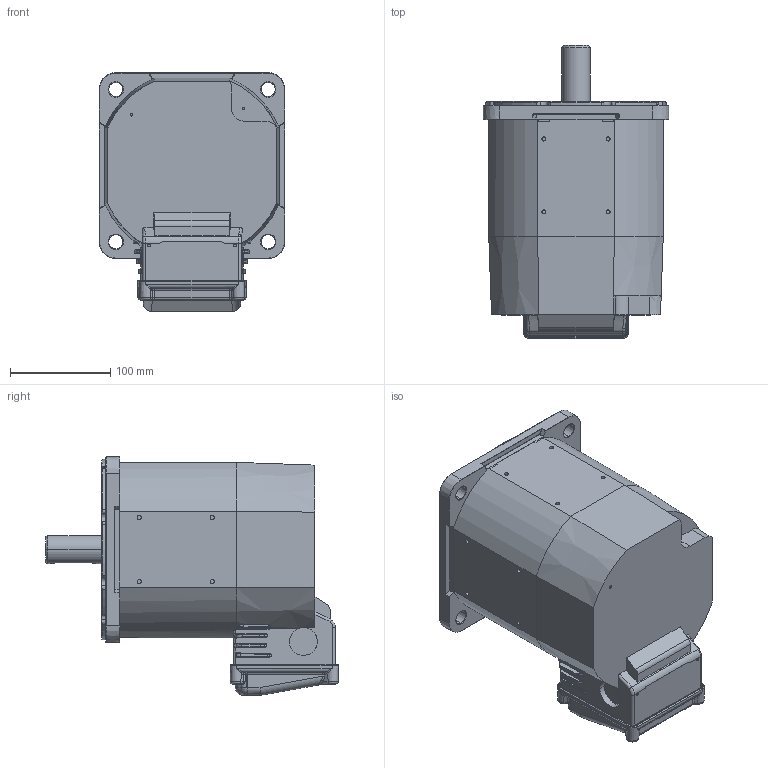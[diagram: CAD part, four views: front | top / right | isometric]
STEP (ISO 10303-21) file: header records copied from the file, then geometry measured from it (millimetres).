
FILE_DESCRIPTION (( 'STEP AP214' ), '1' );
FILE_NAME ('CPM-_ _ _ _-D100_ _-_ _ _ _SIMPLIFIED.STEP', '2023-02-22T19:50:17', ( '' ), ( '' ), 'SwSTEP 2.0', 'SolidWorks 2020', '' );
FILE_SCHEMA (( 'AUTOMOTIVE_DESIGN' ));
Length unit declared in the file: inch
Products named in the file (1): CPM-_ _ _ _-D100_ _-_ _ _ _SIMPLIFIED
Bounding box: 185.5 x 292.33 x 238.18 mm (x, y, z)
Volume: 6234414.9 mm3; surface area: 266736 mm2
Topology: 1 solids, 15 shells, 1719 faces, 4499 edges, 2696 vertices
Faces by surface type: bspline 715, cylinder 494, plane 336, cone 91, torus 67, sphere 16
Entity records: 91640 total; most frequent: CARTESIAN_POINT 35660, ORIENTED_EDGE 8842, DIRECTION 5391, EDGE_CURVE 4421, VERTEX_POINT 2696, AXIS2_PLACEMENT_3D 1982, EDGE_LOOP 1799, ADVANCED_FACE 1719
